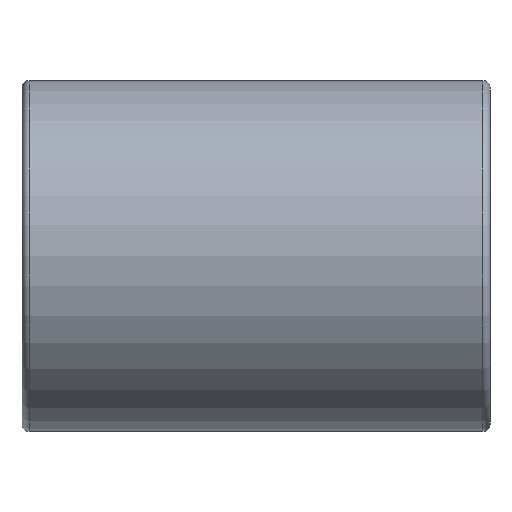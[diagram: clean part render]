
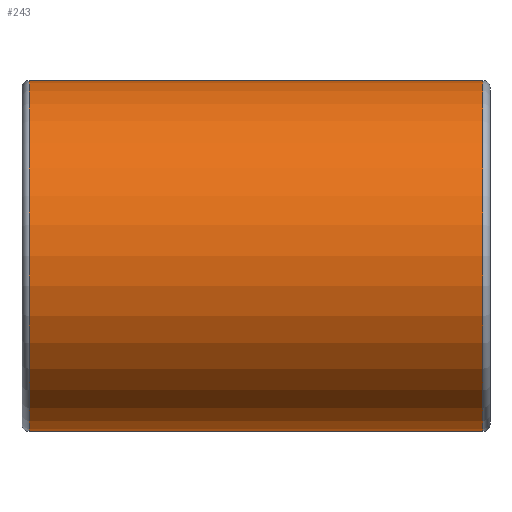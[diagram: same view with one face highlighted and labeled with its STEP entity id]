
A CAD part, top view. The second image highlights one B-rep face of the part: STEP entity #243.
In plain terms, the highlighted cylindrical face has radius 7.5 mm (diameter 15 mm), a partial arc.
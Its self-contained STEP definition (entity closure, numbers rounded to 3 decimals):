
#146=CARTESIAN_POINT('Vertex',(19.7,-7.5,0.)) ;
#153=CARTESIAN_POINT('Vertex',(19.7,7.5,0.)) ;
#173=CARTESIAN_POINT('Axis2P3D Location',(19.7,0.,0.)) ;
#213=CARTESIAN_POINT('Axis2P3D Location',(10.,0.,0.)) ;
#218=CARTESIAN_POINT('Line Origine',(10.,-7.5,0.)) ;
#222=CARTESIAN_POINT('Vertex',(0.3,-7.5,0.)) ;
#225=CARTESIAN_POINT('Line Origine',(10.,7.5,0.)) ;
#229=CARTESIAN_POINT('Vertex',(0.3,7.5,0.)) ;
#232=CARTESIAN_POINT('Axis2P3D Location',(0.3,0.,0.)) ;
#174=DIRECTION('Axis2P3D Direction',(1.,-0.,0.)) ;
#214=DIRECTION('Axis2P3D Direction',(1.,0.,0.)) ;
#215=DIRECTION('Axis2P3D XDirection',(0.,1.,0.)) ;
#219=DIRECTION('Vector Direction',(1.,0.,0.)) ;
#226=DIRECTION('Vector Direction',(1.,0.,0.)) ;
#233=DIRECTION('Axis2P3D Direction',(1.,0.,0.)) ;
#175=AXIS2_PLACEMENT_3D('Circle Axis2P3D',#173,#174,$) ;
#216=AXIS2_PLACEMENT_3D('Cylinder Axis2P3D',#213,#214,#215) ;
#234=AXIS2_PLACEMENT_3D('Circle Axis2P3D',#232,#233,$) ;
#238=ORIENTED_EDGE('',*,*,#224,.T.) ;
#239=ORIENTED_EDGE('',*,*,#177,.F.) ;
#240=ORIENTED_EDGE('',*,*,#231,.F.) ;
#241=ORIENTED_EDGE('',*,*,#236,.T.) ;
#220=VECTOR('Line Direction',#219,1.) ;
#227=VECTOR('Line Direction',#226,1.) ;
#243=ADVANCED_FACE('SSM8100',(#242),#217,.T.) ;
#176=CIRCLE('generated circle',#175,7.5) ;
#235=CIRCLE('generated circle',#234,7.5) ;
#217=CYLINDRICAL_SURFACE('generated cylinder',#216,7.5) ;
#177=EDGE_CURVE('',#154,#147,#176,.T.) ;
#224=EDGE_CURVE('',#223,#147,#221,.T.) ;
#231=EDGE_CURVE('',#230,#154,#228,.T.) ;
#236=EDGE_CURVE('',#230,#223,#235,.T.) ;
#237=EDGE_LOOP('',(#238,#239,#240,#241)) ;
#242=FACE_OUTER_BOUND('',#237,.T.) ;
#221=LINE('Line',#218,#220) ;
#228=LINE('Line',#225,#227) ;
#147=VERTEX_POINT('',#146) ;
#154=VERTEX_POINT('',#153) ;
#223=VERTEX_POINT('',#222) ;
#230=VERTEX_POINT('',#229) ;
